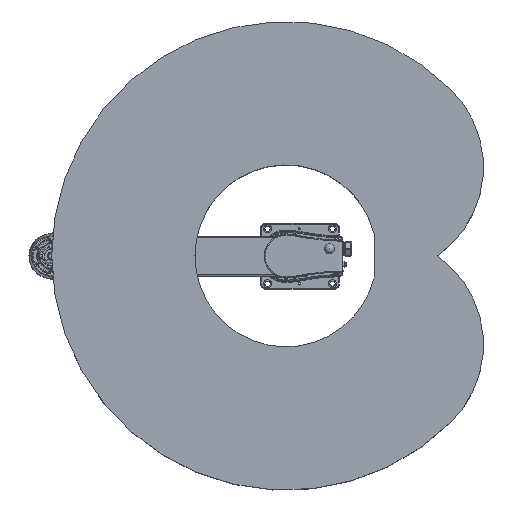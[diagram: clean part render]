
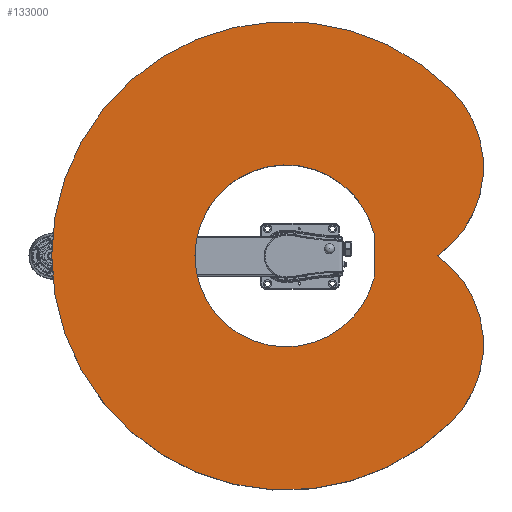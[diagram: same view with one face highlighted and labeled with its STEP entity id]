
A CAD part, top view. The second image highlights one B-rep face of the part: STEP entity #133000.
In plain terms, the highlighted planar face has unit normal (0, 0, 1) as drawn and (0, 1, 0) by its records, which use the part's own axes.
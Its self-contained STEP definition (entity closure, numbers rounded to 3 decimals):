
#2291 = LINE ( 'NONE', #2298, #51883 ) ;
#2298 = CARTESIAN_POINT ( 'NONE',  ( 59.835, 400., 265.165 ) ) ;
#2299 = DIRECTION ( 'NONE',  ( 1., 0., 0. ) ) ;
#31054 = AXIS2_PLACEMENT_3D ( 'NONE', #32429, #32423, #32448 ) ;
#32423 = DIRECTION ( 'NONE',  ( 0., 1., 0. ) ) ;
#32429 = CARTESIAN_POINT ( 'NONE',  ( 132.583, 400., 132.583 ) ) ;
#32431 = FACE_OUTER_BOUND ( 'NONE', #50149, .T. ) ;
#32437 = FACE_BOUND ( 'NONE', #50125, .T. ) ;
#32442 = PLANE ( 'NONE',  #31054 ) ;
#32448 = DIRECTION ( 'NONE',  ( 0., 0., 1. ) ) ;
#50125 = EDGE_LOOP ( 'NONE', ( #143841, #143636, #143640 ) ) ;
#50149 = EDGE_LOOP ( 'NONE', ( #143832, #143623, #143835, #143894 ) ) ;
#51883 = VECTOR ( 'NONE', #2299, 1000. ) ;
#52680 = AXIS2_PLACEMENT_3D ( 'NONE', #198762, #198763, #198764 ) ;
#52710 = CIRCLE ( 'NONE', #52680, 271.832 ) ;
#52803 = AXIS2_PLACEMENT_3D ( 'NONE', #198682, #198683, #198684 ) ;
#52828 = CIRCLE ( 'NONE', #52803, 325. ) ;
#52943 = AXIS2_PLACEMENT_3D ( 'NONE', #198579, #198581, #198583 ) ;
#52974 = CIRCLE ( 'NONE', #52943, 700. ) ;
#53041 = AXIS2_PLACEMENT_3D ( 'NONE', #198500, #198502, #198504 ) ;
#53077 = CIRCLE ( 'NONE', #53041, 325. ) ;
#53223 = AXIS2_PLACEMENT_3D ( 'NONE', #198391, #198393, #198395 ) ;
#53367 = CIRCLE ( 'NONE', #53223, 271.832 ) ;
#53911 = AXIS2_PLACEMENT_3D ( 'NONE', #197597, #197599, #197601 ) ;
#53940 = CIRCLE ( 'NONE', #53911, 700. ) ;
#79693 = EDGE_CURVE ( 'NONE', #149641, #150743, #2291, .T. ) ;
#80601 = EDGE_CURVE ( 'NONE', #144946, #150769, #53940, .T. ) ;
#80705 = EDGE_CURVE ( 'NONE', #150743, #145203, #53367, .T. ) ;
#80719 = EDGE_CURVE ( 'NONE', #145159, #145275, #53077, .T. ) ;
#80729 = EDGE_CURVE ( 'NONE', #145275, #144946, #52974, .T. ) ;
#80746 = EDGE_CURVE ( 'NONE', #150769, #145159, #52828, .T. ) ;
#80764 = EDGE_CURVE ( 'NONE', #145203, #149641, #52710, .T. ) ;
#125859 = CARTESIAN_POINT ( 'NONE',  ( 0., 400., -700. ) ) ;
#126366 = CARTESIAN_POINT ( 'NONE',  ( 0., 400., 453.081 ) ) ;
#126451 = CARTESIAN_POINT ( 'NONE',  ( 0., 400., -271.832 ) ) ;
#126645 = CARTESIAN_POINT ( 'NONE',  ( 494.975, 400., 494.975 ) ) ;
#128606 = CARTESIAN_POINT ( 'NONE',  ( -59.835, 400., 265.165 ) ) ;
#129360 = CARTESIAN_POINT ( 'NONE',  ( -494.975, 400., 494.975 ) ) ;
#129382 = CARTESIAN_POINT ( 'NONE',  ( 59.835, 400., 265.165 ) ) ;
#133000 = ADVANCED_FACE ( 'NONE', ( #32431, #32437 ), #32442, .T. ) ;
#143623 = ORIENTED_EDGE ( 'NONE', *, *, #80729, .T. ) ;
#143636 = ORIENTED_EDGE ( 'NONE', *, *, #80764, .F. ) ;
#143640 = ORIENTED_EDGE ( 'NONE', *, *, #80705, .F. ) ;
#143832 = ORIENTED_EDGE ( 'NONE', *, *, #80719, .T. ) ;
#143835 = ORIENTED_EDGE ( 'NONE', *, *, #80601, .T. ) ;
#143841 = ORIENTED_EDGE ( 'NONE', *, *, #79693, .F. ) ;
#143894 = ORIENTED_EDGE ( 'NONE', *, *, #80746, .T. ) ;
#144946 = VERTEX_POINT ( 'NONE', #125859 ) ;
#145159 = VERTEX_POINT ( 'NONE', #126366 ) ;
#145203 = VERTEX_POINT ( 'NONE', #126451 ) ;
#145275 = VERTEX_POINT ( 'NONE', #126645 ) ;
#149641 = VERTEX_POINT ( 'NONE', #128606 ) ;
#150743 = VERTEX_POINT ( 'NONE', #129382 ) ;
#150769 = VERTEX_POINT ( 'NONE', #129360 ) ;
#197597 = CARTESIAN_POINT ( 'NONE',  ( 0., 400., 0. ) ) ;
#197599 = DIRECTION ( 'NONE',  ( 0., 1., 0. ) ) ;
#197601 = DIRECTION ( 'NONE',  ( 0., 0., 1. ) ) ;
#198391 = CARTESIAN_POINT ( 'NONE',  ( 0., 400., 0. ) ) ;
#198393 = DIRECTION ( 'NONE',  ( 0., 1., 0. ) ) ;
#198395 = DIRECTION ( 'NONE',  ( 0., 0., 1. ) ) ;
#198500 = CARTESIAN_POINT ( 'NONE',  ( 265.165, 400., 265.165 ) ) ;
#198502 = DIRECTION ( 'NONE',  ( 0., 1., 0. ) ) ;
#198504 = DIRECTION ( 'NONE',  ( 0., 0., 1. ) ) ;
#198579 = CARTESIAN_POINT ( 'NONE',  ( 0., 400., 0. ) ) ;
#198581 = DIRECTION ( 'NONE',  ( 0., 1., 0. ) ) ;
#198583 = DIRECTION ( 'NONE',  ( 0., 0., 1. ) ) ;
#198682 = CARTESIAN_POINT ( 'NONE',  ( -265.165, 400., 265.165 ) ) ;
#198683 = DIRECTION ( 'NONE',  ( 0., 1., 0. ) ) ;
#198684 = DIRECTION ( 'NONE',  ( 0., 0., 1. ) ) ;
#198762 = CARTESIAN_POINT ( 'NONE',  ( 0., 400., 0. ) ) ;
#198763 = DIRECTION ( 'NONE',  ( 0., 1., 0. ) ) ;
#198764 = DIRECTION ( 'NONE',  ( 0., 0., 1. ) ) ;
